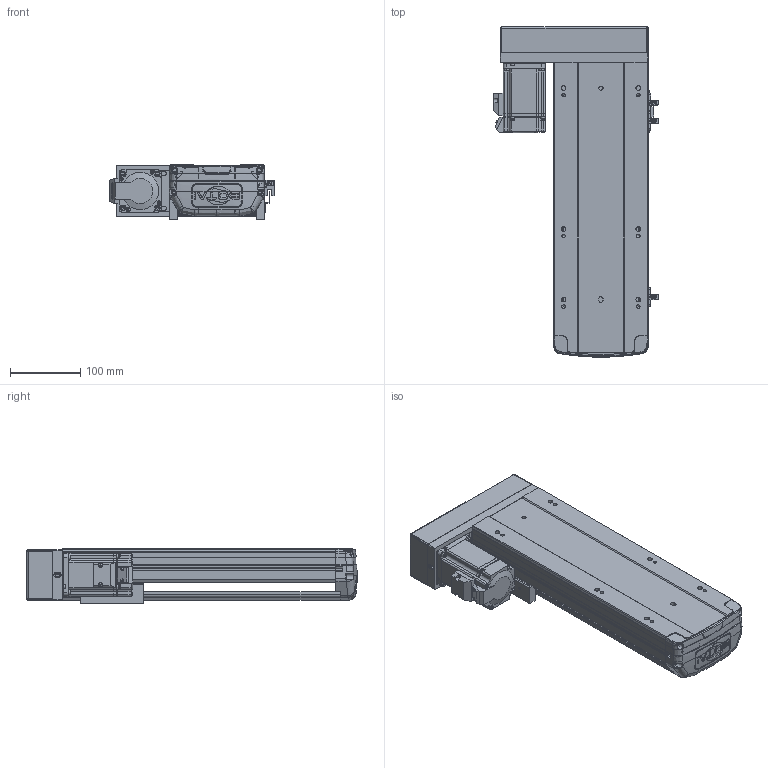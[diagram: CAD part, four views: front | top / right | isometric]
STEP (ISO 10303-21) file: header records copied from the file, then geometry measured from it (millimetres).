
FILE_DESCRIPTION (( 'STEP AP203' ), '1' );
FILE_NAME ('5.STEP', '2020-11-07T01:05:23', ( '' ), ( '' ), 'SwSTEP 2.0', 'SolidWorks 2016', '' );
FILE_SCHEMA (( 'CONFIG_CONTROL_DESIGN' ));
Length unit declared in the file: millimetre
Products named in the file (10): 5; BTH13-BR-06; BTH13-BR-HZ; BTH13-BR-20; BTH13-BL-BM-BR-菁釱; BTH13-BR-03; BTH13-BR-P20; BTH13-BR-01; BTH13-BR-02; BTH13-BR-04
Assembly tree (11 placements, depth 2):
  5
    BTH13-BL-BM-BR-菁釱
    BTH13-BR-01
    BTH13-BR-02
    BTH13-BR-03
    BTH13-BR-04  x3
    BTH13-BR-06
    BTH13-BR-HZ
    BTH13-BR-P20
    BTH13-BR-20
Bounding box: 233.2 x 468.71 x 78 mm (x, y, z)
Volume: 2261835.7 mm3; surface area: 565701.5 mm2
Topology: 12 solids, 12 shells, 1807 faces, 4863 edges, 3141 vertices
Faces by surface type: plane 978, cylinder 493, bspline 201, cone 102, torus 33
Entity records: 60477 total; most frequent: CARTESIAN_POINT 21321, ORIENTED_EDGE 8378, DIRECTION 7308, EDGE_CURVE 4189, VERTEX_POINT 2717, AXIS2_PLACEMENT_3D 2454, VECTOR 2400, LINE 2400
